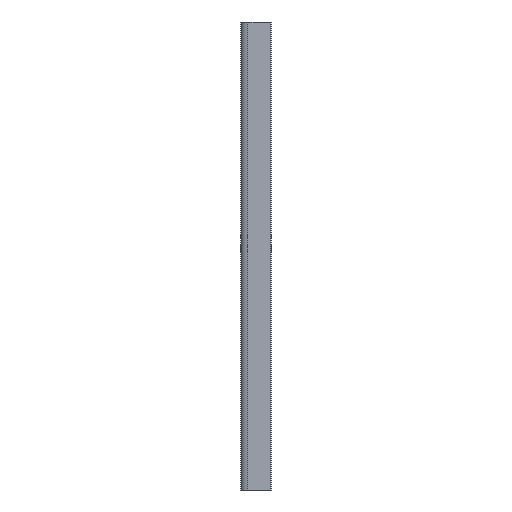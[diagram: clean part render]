
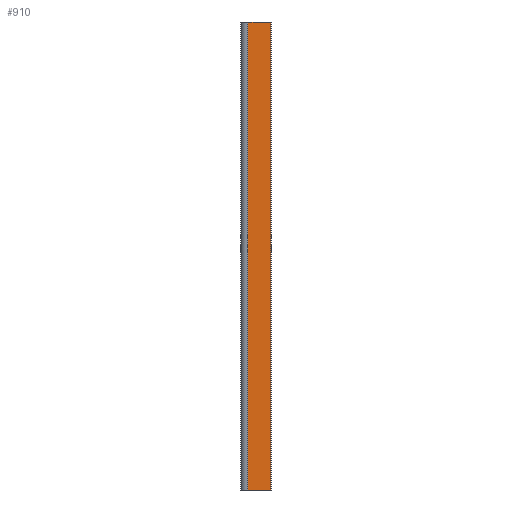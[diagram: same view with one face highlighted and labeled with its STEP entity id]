
A CAD part, left-side view. The second image highlights one B-rep face of the part: STEP entity #910.
In plain terms, the highlighted planar face has unit normal (-1, 0, 0).
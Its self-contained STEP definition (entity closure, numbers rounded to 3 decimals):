
#17 = ORIENTED_EDGE ( 'NONE', *, *, #827, .T. ) ;
#55 = ORIENTED_EDGE ( 'NONE', *, *, #137, .F. ) ;
#57 = DIRECTION ( 'NONE',  ( 0., 0., -1. ) ) ;
#72 = LINE ( 'NONE', #545, #494 ) ;
#137 = EDGE_CURVE ( 'NONE', #613, #713, #72, .T. ) ;
#164 = PLANE ( 'NONE',  #742 ) ;
#166 = VERTEX_POINT ( 'NONE', #413 ) ;
#169 = DIRECTION ( 'NONE',  ( 1., 0., 0. ) ) ;
#186 = LINE ( 'NONE', #547, #363 ) ;
#266 = LINE ( 'NONE', #407, #636 ) ;
#270 = DIRECTION ( 'NONE',  ( 0., 0., 1. ) ) ;
#295 = CARTESIAN_POINT ( 'NONE',  ( -565.401, 131.952, 0. ) ) ;
#306 = CARTESIAN_POINT ( 'NONE',  ( -565.401, 136.852, 100. ) ) ;
#363 = VECTOR ( 'NONE', #57, 1000. ) ;
#407 = CARTESIAN_POINT ( 'NONE',  ( -565.401, 131.952, 100. ) ) ;
#413 = CARTESIAN_POINT ( 'NONE',  ( -565.401, 136.852, 0. ) ) ;
#486 = ORIENTED_EDGE ( 'NONE', *, *, #651, .T. ) ;
#494 = VECTOR ( 'NONE', #744, 1000. ) ;
#545 = CARTESIAN_POINT ( 'NONE',  ( -565.401, 131.352, 100. ) ) ;
#547 = CARTESIAN_POINT ( 'NONE',  ( -565.401, 136.852, 100. ) ) ;
#613 = VERTEX_POINT ( 'NONE', #306 ) ;
#636 = VECTOR ( 'NONE', #270, 1000. ) ;
#651 = EDGE_CURVE ( 'NONE', #166, #702, #908, .T. ) ;
#662 = CARTESIAN_POINT ( 'NONE',  ( -565.401, 131.352, 0. ) ) ;
#702 = VERTEX_POINT ( 'NONE', #295 ) ;
#713 = VERTEX_POINT ( 'NONE', #875 ) ;
#734 = EDGE_LOOP ( 'NONE', ( #486, #894, #55, #17 ) ) ;
#742 = AXIS2_PLACEMENT_3D ( 'NONE', #909, #169, #765 ) ;
#744 = DIRECTION ( 'NONE',  ( 0., -1., 0. ) ) ;
#765 = DIRECTION ( 'NONE',  ( 0., 1., 0. ) ) ;
#827 = EDGE_CURVE ( 'NONE', #613, #166, #186, .T. ) ;
#869 = FACE_OUTER_BOUND ( 'NONE', #734, .T. ) ;
#875 = CARTESIAN_POINT ( 'NONE',  ( -565.401, 131.952, 100. ) ) ;
#879 = DIRECTION ( 'NONE',  ( 0., -1., 0. ) ) ;
#885 = VECTOR ( 'NONE', #879, 1000. ) ;
#894 = ORIENTED_EDGE ( 'NONE', *, *, #933, .T. ) ;
#908 = LINE ( 'NONE', #662, #885 ) ;
#909 = CARTESIAN_POINT ( 'NONE',  ( -565.401, 131.352, 100. ) ) ;
#910 = ADVANCED_FACE ( 'NONE', ( #869 ), #164, .F. ) ;
#933 = EDGE_CURVE ( 'NONE', #702, #713, #266, .T. ) ;
